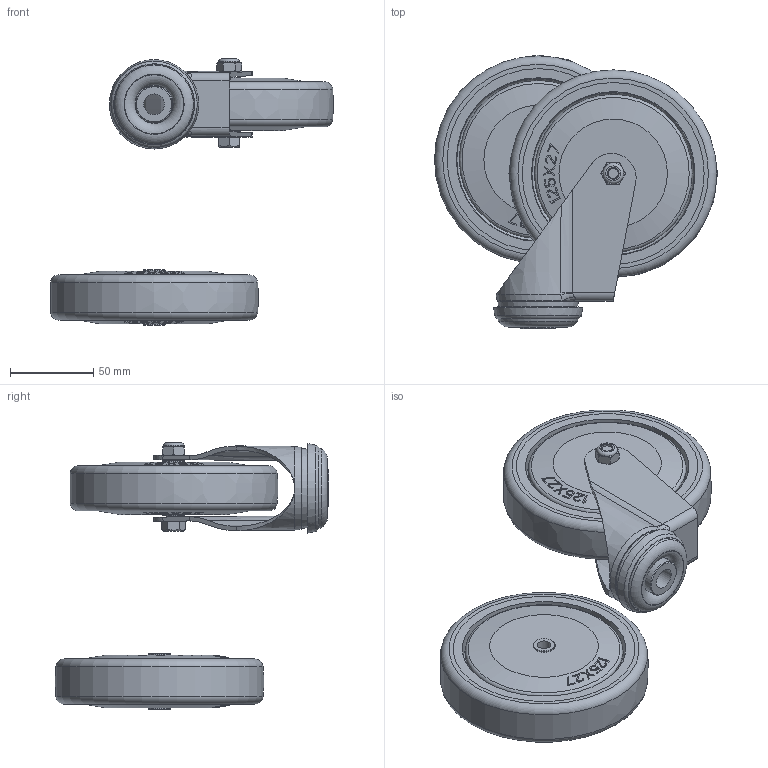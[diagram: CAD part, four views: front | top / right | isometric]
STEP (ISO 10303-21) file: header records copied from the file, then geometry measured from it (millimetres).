
FILE_DESCRIPTION(('STEP AP203'),'1');
FILE_NAME('E:/Pomoc/Strongo/344a39J125rZLC.stp',' ',(' '),(' '),'XStep 1.0',' ',' ');
FILE_SCHEMA(('CONFIG_CONTROL_DESIGN'));
Length unit declared in the file: metre
Products named in the file (3): Next assembly relationship; Assembly145; Assembly119
Bounding box: 169.56 x 164 x 159.44 mm (x, y, z)
Volume: 467922.6 mm3; surface area: 304540.3 mm2
Topology: 126 solids, 126 shells, 3257 faces, 9073 edges, 6024 vertices
Faces by surface type: plane 2275, cone 239, torus 225, bspline 219, cylinder 195, sphere 104
Full cylindrical faces by diameter (mm): 2.076 x4, 4.014 x2, 7 x1, 8 x19, 8.3 x4, 12 x6, 12.5 x3, 13.2 x4, 16 x2, 16.3 x4, 17.4 x4, 18 x4, 21.58 x2, 22 x2, 26 x4, 29 x4, 32 x6, 40 x2, 92.5 x4, 94.5 x4, 109 x4
Entity records: 55709 total; most frequent: CARTESIAN_POINT 19711, ORIENTED_EDGE 7750, DIRECTION 6558, EDGE_CURVE 3875, LINE 2756, VECTOR 2756, VERTEX_POINT 2616, AXIS2_PLACEMENT_3D 1901
